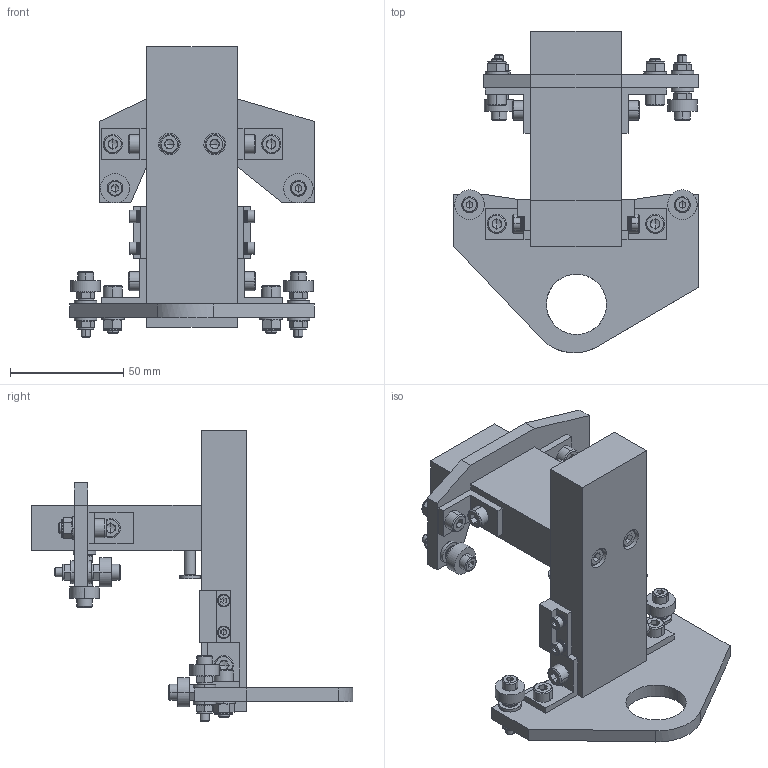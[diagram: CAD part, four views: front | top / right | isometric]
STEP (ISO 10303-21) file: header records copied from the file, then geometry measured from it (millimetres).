
FILE_DESCRIPTION(/* description */ (''),/* implementation_level */ '2;1');
FILE_NAME(/* name */ 'x-cart',/* time_stamp */ '2013-11-26T23:56:02+01:00',/* author */ (''),/* organization */ (''),/* preprocessor_version */ 'ST-DEVELOPER v14',/* originating_system */ '',/* authorisation */ '');
FILE_SCHEMA (('AUTOMOTIVE_DESIGN'));
Length unit declared in the file: millimetre
Products named in the file (17): Document; tslot nut, pre, M4; ball bearing roller 4x13x5mm; screw DIN912-like, adhesive, M4x25; tslot nut, pre, M3; washer Schnorr-like, lock, M3; screw DIN912-like, M3x10; screw DIN912-like, adhesive, M4x15; nut DIN985-like, lock, M4; washer DIN9021-like, form G, M4; screw DIN912-like, M5x08; nut tslot, post, M5; screw DIN912-like, M5x16; washer DIN125-like, form A, M5; nut DIN985-like, lock, M5; screw DIN912-like, adhesive, M5x25; screw DIN7984-like, low, M5x16
Assembly tree (59 placements, depth 2):
  Document
    tslot nut, pre, M4  x2
    ball bearing roller 4x13x5mm
    screw DIN912-like, adhesive, M4x25  x5
    tslot nut, pre, M3  x2
    washer Schnorr-like, lock, M3  x6
    screw DIN912-like, M3x10  x2
    screw DIN912-like, adhesive, M4x15
    nut DIN985-like, lock, M4  x9
    washer DIN9021-like, form G, M4  x9
    screw DIN912-like, M5x08  x2
    nut tslot, post, M5  x4
    screw DIN912-like, M5x16  x4
    washer DIN125-like, form A, M5  x4
    nut DIN985-like, lock, M5  x4
    screw DIN912-like, adhesive, M5x25  x2
    screw DIN7984-like, low, M5x16  x2
Bounding box: 108 x 141.93 x 128.3 mm (x, y, z)
Volume: 223999.3 mm3; surface area: 77320.4 mm2
Topology: 65 solids, 245 shells, 1874 faces, 4700 edges, 3134 vertices
Faces by surface type: bspline 944, plane 930
Entity records: 53887 total; most frequent: CARTESIAN_POINT 26140, B_SPLINE_CURVE_WITH_KNOTS 4449, ORIENTED_EDGE 3874, PCURVE 3874, DEFINITIONAL_REPRESENTATION 3874, SURFACE_CURVE 2079, EDGE_CURVE 2079, VERTEX_POINT 1414
